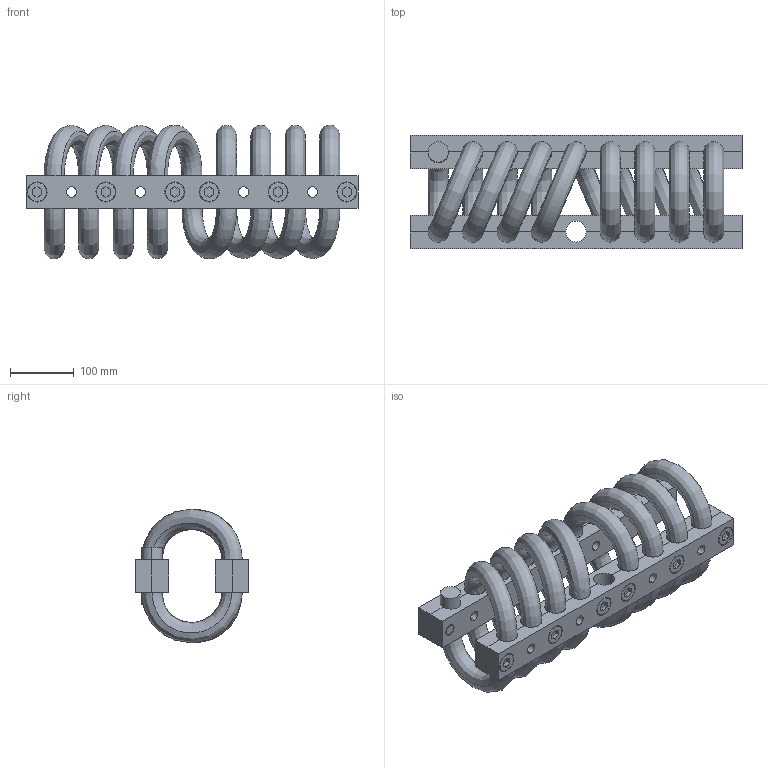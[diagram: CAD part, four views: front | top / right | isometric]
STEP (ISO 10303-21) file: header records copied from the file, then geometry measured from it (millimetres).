
FILE_DESCRIPTION (( 'STEP AP214' ), '1' );
FILE_NAME ('WR40-200-8D.STEP', '2018-12-07T10:14:42', ( 'user' ), ( 'Microsoft' ), 'SwSTEP 2.0', 'SolidWorks 2016', '' );
FILE_SCHEMA (( 'AUTOMOTIVE_DESIGN' ));
Length unit declared in the file: millimetre
Products named in the file (1): WR40-200-8D
Bounding box: 520.7 x 178 x 209.99 mm (x, y, z)
Volume: 5461859.8 mm3; surface area: 907720 mm2
Topology: 34 solids, 34 shells, 700 faces, 1648 edges, 1052 vertices
Faces by surface type: plane 300, cylinder 294, cone 72, bspline 34
Entity records: 40913 total; most frequent: CARTESIAN_POINT 23225, DIRECTION 3400, ORIENTED_EDGE 3296, EDGE_CURVE 1648, AXIS2_PLACEMENT_3D 1259, VERTEX_POINT 1052, LINE 882, VECTOR 882
